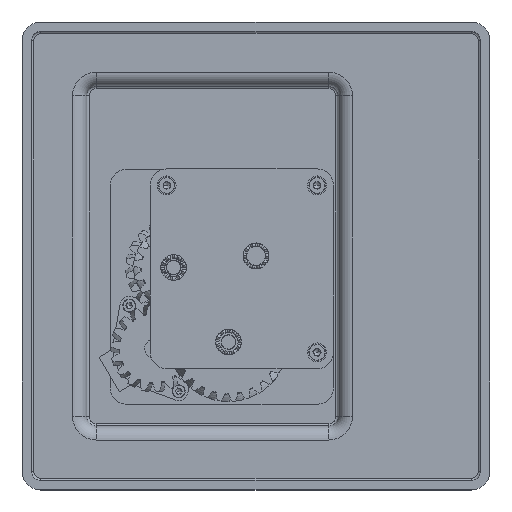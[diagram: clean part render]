
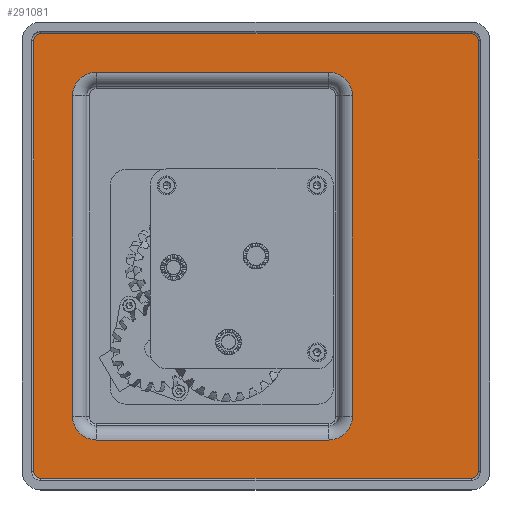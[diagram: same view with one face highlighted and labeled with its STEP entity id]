
A CAD part, top view. The second image highlights one B-rep face of the part: STEP entity #291081.
In plain terms, the highlighted planar face has unit normal (0, 0, 1).
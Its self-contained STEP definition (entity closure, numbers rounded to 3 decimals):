
#967 = EDGE_CURVE ( 'NONE', #358158, #104032, #185948, .T. ) ;
#3153 = DIRECTION ( 'NONE',  ( 0., 0., 1. ) ) ;
#3155 = DIRECTION ( 'NONE',  ( 1., 0., 0. ) ) ;
#4378 = ORIENTED_EDGE ( 'NONE', *, *, #276951, .F. ) ;
#5886 = CARTESIAN_POINT ( 'NONE',  ( 91.5, 91.5, 23.7 ) ) ;
#7650 = EDGE_CURVE ( 'NONE', #297709, #141750, #159550, .T. ) ;
#9488 = ORIENTED_EDGE ( 'NONE', *, *, #57470, .F. ) ;
#9764 = FACE_BOUND ( 'NONE', #219664, .T. ) ;
#12578 = CARTESIAN_POINT ( 'NONE',  ( 31., -68.25, 23.7 ) ) ;
#13883 = DIRECTION ( 'NONE',  ( 1., 0., 0. ) ) ;
#15194 = DIRECTION ( 'NONE',  ( 0., 0., 1. ) ) ;
#19377 = VECTOR ( 'NONE', #323003, 1000. ) ;
#25067 = VERTEX_POINT ( 'NONE', #191737 ) ;
#34382 = ORIENTED_EDGE ( 'NONE', *, *, #189515, .F. ) ;
#35128 = CARTESIAN_POINT ( 'NONE',  ( 94.5, -91.5, 23.7 ) ) ;
#36538 = PLANE ( 'NONE',  #216601 ) ;
#39986 = VERTEX_POINT ( 'NONE', #253560 ) ;
#43835 = EDGE_CURVE ( 'NONE', #141750, #147215, #129885, .T. ) ;
#51353 = EDGE_CURVE ( 'NONE', #52360, #122577, #342643, .T. ) ;
#51646 = DIRECTION ( 'NONE',  ( 1., 0., 0. ) ) ;
#52360 = VERTEX_POINT ( 'NONE', #59146 ) ;
#54558 = VECTOR ( 'NONE', #86268, 1000. ) ;
#56623 = LINE ( 'NONE', #162683, #128117 ) ;
#57470 = EDGE_CURVE ( 'NONE', #263936, #297486, #213480, .T. ) ;
#59146 = CARTESIAN_POINT ( 'NONE',  ( -78., -68.25, 23.7 ) ) ;
#62053 = AXIS2_PLACEMENT_3D ( 'NONE', #320543, #255360, #227386 ) ;
#63340 = ORIENTED_EDGE ( 'NONE', *, *, #51353, .F. ) ;
#70835 = CARTESIAN_POINT ( 'NONE',  ( -18.5, 78.25, 23.7 ) ) ;
#71558 = FACE_OUTER_BOUND ( 'NONE', #167177, .T. ) ;
#77544 = ORIENTED_EDGE ( 'NONE', *, *, #356277, .F. ) ;
#79093 = AXIS2_PLACEMENT_3D ( 'NONE', #12578, #15194, #13883 ) ;
#82898 = DIRECTION ( 'NONE',  ( 0., -1., 0. ) ) ;
#86268 = DIRECTION ( 'NONE',  ( 1., 0., 0. ) ) ;
#88110 = EDGE_CURVE ( 'NONE', #147215, #358158, #116700, .T. ) ;
#97538 = CARTESIAN_POINT ( 'NONE',  ( -68., -68.25, 23.7 ) ) ;
#104032 = VERTEX_POINT ( 'NONE', #183674 ) ;
#105388 = DIRECTION ( 'NONE',  ( -1., 0., 0. ) ) ;
#107893 = CARTESIAN_POINT ( 'NONE',  ( -94.5, -91.5, 23.7 ) ) ;
#109101 = CARTESIAN_POINT ( 'NONE',  ( -94.5, 0., 23.7 ) ) ;
#110126 = DIRECTION ( 'NONE',  ( 1., 0., 0. ) ) ;
#110212 = CARTESIAN_POINT ( 'NONE',  ( -91.5, -91.5, 23.7 ) ) ;
#116700 = LINE ( 'NONE', #320865, #269002 ) ;
#122577 = VERTEX_POINT ( 'NONE', #246022 ) ;
#124238 = CARTESIAN_POINT ( 'NONE',  ( 91.5, -91.5, 23.7 ) ) ;
#127764 = VERTEX_POINT ( 'NONE', #107893 ) ;
#128117 = VECTOR ( 'NONE', #379060, 1000. ) ;
#129885 = CIRCLE ( 'NONE', #250186, 3. ) ;
#130887 = CIRCLE ( 'NONE', #79093, 10. ) ;
#136131 = ORIENTED_EDGE ( 'NONE', *, *, #163243, .T. ) ;
#140297 = LINE ( 'NONE', #329089, #311768 ) ;
#141750 = VERTEX_POINT ( 'NONE', #153306 ) ;
#144756 = EDGE_CURVE ( 'NONE', #104032, #127764, #231119, .T. ) ;
#147215 = VERTEX_POINT ( 'NONE', #172539 ) ;
#149002 = ORIENTED_EDGE ( 'NONE', *, *, #255509, .F. ) ;
#153306 = CARTESIAN_POINT ( 'NONE',  ( 94.5, 91.5, 23.7 ) ) ;
#154869 = CARTESIAN_POINT ( 'NONE',  ( 31., 78.25, 23.7 ) ) ;
#156609 = CARTESIAN_POINT ( 'NONE',  ( 41., -68.25, 23.7 ) ) ;
#159550 = LINE ( 'NONE', #192503, #264018 ) ;
#162683 = CARTESIAN_POINT ( 'NONE',  ( 41., 0., 23.7 ) ) ;
#163243 = EDGE_CURVE ( 'NONE', #127764, #368122, #267039, .T. ) ;
#167177 = EDGE_LOOP ( 'NONE', ( #241734, #380141, #330810, #136131, #275393, #230599, #198852, #289507 ) ) ;
#172539 = CARTESIAN_POINT ( 'NONE',  ( 91.5, 94.5, 23.7 ) ) ;
#183674 = CARTESIAN_POINT ( 'NONE',  ( -94.5, 91.5, 23.7 ) ) ;
#185948 = CIRCLE ( 'NONE', #347656, 3. ) ;
#186804 = DIRECTION ( 'NONE',  ( 0., 0., 1. ) ) ;
#188316 = AXIS2_PLACEMENT_3D ( 'NONE', #353676, #264364, #110126 ) ;
#189515 = EDGE_CURVE ( 'NONE', #304192, #25067, #294104, .T. ) ;
#189993 = CARTESIAN_POINT ( 'NONE',  ( 0., -94.5, 23.7 ) ) ;
#191737 = CARTESIAN_POINT ( 'NONE',  ( -78., 68.25, 23.7 ) ) ;
#192503 = CARTESIAN_POINT ( 'NONE',  ( 94.5, 0., 23.7 ) ) ;
#196598 = LINE ( 'NONE', #70835, #296660 ) ;
#198852 = ORIENTED_EDGE ( 'NONE', *, *, #7650, .T. ) ;
#213480 = CIRCLE ( 'NONE', #188316, 10. ) ;
#214542 = CARTESIAN_POINT ( 'NONE',  ( -91.5, 94.5, 23.7 ) ) ;
#214932 = CARTESIAN_POINT ( 'NONE',  ( 41., 68.25, 23.7 ) ) ;
#216601 = AXIS2_PLACEMENT_3D ( 'NONE', #279958, #309259, #307955 ) ;
#219664 = EDGE_LOOP ( 'NONE', ( #281275, #77544, #63340, #357766, #34382, #149002, #9488, #4378 ) ) ;
#225706 = DIRECTION ( 'NONE',  ( 0., 1., 0. ) ) ;
#227386 = DIRECTION ( 'NONE',  ( 1., 0., 0. ) ) ;
#230599 = ORIENTED_EDGE ( 'NONE', *, *, #255120, .T. ) ;
#231119 = LINE ( 'NONE', #109101, #274006 ) ;
#232950 = DIRECTION ( 'NONE',  ( -1., 0., 0. ) ) ;
#240090 = LINE ( 'NONE', #189993, #54558 ) ;
#241734 = ORIENTED_EDGE ( 'NONE', *, *, #88110, .T. ) ;
#246022 = CARTESIAN_POINT ( 'NONE',  ( -68., -78.25, 23.7 ) ) ;
#246508 = DIRECTION ( 'NONE',  ( 1., 0., 0. ) ) ;
#249231 = DIRECTION ( 'NONE',  ( 1., 0., 0. ) ) ;
#250186 = AXIS2_PLACEMENT_3D ( 'NONE', #5886, #186804, #249231 ) ;
#253560 = CARTESIAN_POINT ( 'NONE',  ( 91.5, -94.5, 23.7 ) ) ;
#255120 = EDGE_CURVE ( 'NONE', #39986, #297709, #344534, .T. ) ;
#255360 = DIRECTION ( 'NONE',  ( 0., 0., 1. ) ) ;
#255509 = EDGE_CURVE ( 'NONE', #297486, #304192, #196598, .T. ) ;
#256553 = AXIS2_PLACEMENT_3D ( 'NONE', #124238, #341097, #3155 ) ;
#259170 = DIRECTION ( 'NONE',  ( 1., 0., 0. ) ) ;
#263936 = VERTEX_POINT ( 'NONE', #214932 ) ;
#264018 = VECTOR ( 'NONE', #225706, 1000. ) ;
#264063 = VERTEX_POINT ( 'NONE', #266215 ) ;
#264364 = DIRECTION ( 'NONE',  ( 0., 0., 1. ) ) ;
#266215 = CARTESIAN_POINT ( 'NONE',  ( 31., -78.25, 23.7 ) ) ;
#267039 = CIRCLE ( 'NONE', #288871, 3. ) ;
#269002 = VECTOR ( 'NONE', #232950, 1000. ) ;
#274006 = VECTOR ( 'NONE', #384547, 1000. ) ;
#275393 = ORIENTED_EDGE ( 'NONE', *, *, #390835, .T. ) ;
#276951 = EDGE_CURVE ( 'NONE', #280074, #263936, #56623, .T. ) ;
#279958 = CARTESIAN_POINT ( 'NONE',  ( 0., 0., 23.7 ) ) ;
#280074 = VERTEX_POINT ( 'NONE', #156609 ) ;
#281275 = ORIENTED_EDGE ( 'NONE', *, *, #340747, .F. ) ;
#288871 = AXIS2_PLACEMENT_3D ( 'NONE', #110212, #325705, #51646 ) ;
#289507 = ORIENTED_EDGE ( 'NONE', *, *, #43835, .T. ) ;
#291081 = ADVANCED_FACE ( 'NONE', ( #71558, #9764 ), #36538, .T. ) ;
#294104 = CIRCLE ( 'NONE', #62053, 10. ) ;
#296660 = VECTOR ( 'NONE', #105388, 1000. ) ;
#297486 = VERTEX_POINT ( 'NONE', #154869 ) ;
#297709 = VERTEX_POINT ( 'NONE', #35128 ) ;
#304192 = VERTEX_POINT ( 'NONE', #358676 ) ;
#307955 = DIRECTION ( 'NONE',  ( 1., 0., 0. ) ) ;
#309259 = DIRECTION ( 'NONE',  ( 0., 0., 1. ) ) ;
#311465 = EDGE_CURVE ( 'NONE', #25067, #52360, #140297, .T. ) ;
#311768 = VECTOR ( 'NONE', #82898, 1000. ) ;
#319087 = LINE ( 'NONE', #356309, #19377 ) ;
#320446 = DIRECTION ( 'NONE',  ( 0., 0., 1. ) ) ;
#320543 = CARTESIAN_POINT ( 'NONE',  ( -68., 68.25, 23.7 ) ) ;
#320865 = CARTESIAN_POINT ( 'NONE',  ( 0., 94.5, 23.7 ) ) ;
#323003 = DIRECTION ( 'NONE',  ( 1., 0., 0. ) ) ;
#325705 = DIRECTION ( 'NONE',  ( 0., 0., 1. ) ) ;
#329089 = CARTESIAN_POINT ( 'NONE',  ( -78., 0., 23.7 ) ) ;
#330810 = ORIENTED_EDGE ( 'NONE', *, *, #144756, .T. ) ;
#340747 = EDGE_CURVE ( 'NONE', #264063, #280074, #130887, .T. ) ;
#341097 = DIRECTION ( 'NONE',  ( 0., 0., 1. ) ) ;
#342643 = CIRCLE ( 'NONE', #368032, 10. ) ;
#344534 = CIRCLE ( 'NONE', #256553, 3. ) ;
#347656 = AXIS2_PLACEMENT_3D ( 'NONE', #348522, #320446, #259170 ) ;
#348522 = CARTESIAN_POINT ( 'NONE',  ( -91.5, 91.5, 23.7 ) ) ;
#353676 = CARTESIAN_POINT ( 'NONE',  ( 31., 68.25, 23.7 ) ) ;
#356277 = EDGE_CURVE ( 'NONE', #122577, #264063, #319087, .T. ) ;
#356309 = CARTESIAN_POINT ( 'NONE',  ( -18.5, -78.25, 23.7 ) ) ;
#357766 = ORIENTED_EDGE ( 'NONE', *, *, #311465, .F. ) ;
#358158 = VERTEX_POINT ( 'NONE', #214542 ) ;
#358676 = CARTESIAN_POINT ( 'NONE',  ( -68., 78.25, 23.7 ) ) ;
#368032 = AXIS2_PLACEMENT_3D ( 'NONE', #97538, #3153, #246508 ) ;
#368122 = VERTEX_POINT ( 'NONE', #375977 ) ;
#375977 = CARTESIAN_POINT ( 'NONE',  ( -91.5, -94.5, 23.7 ) ) ;
#379060 = DIRECTION ( 'NONE',  ( 0., 1., 0. ) ) ;
#380141 = ORIENTED_EDGE ( 'NONE', *, *, #967, .T. ) ;
#384547 = DIRECTION ( 'NONE',  ( 0., -1., 0. ) ) ;
#390835 = EDGE_CURVE ( 'NONE', #368122, #39986, #240090, .T. ) ;
